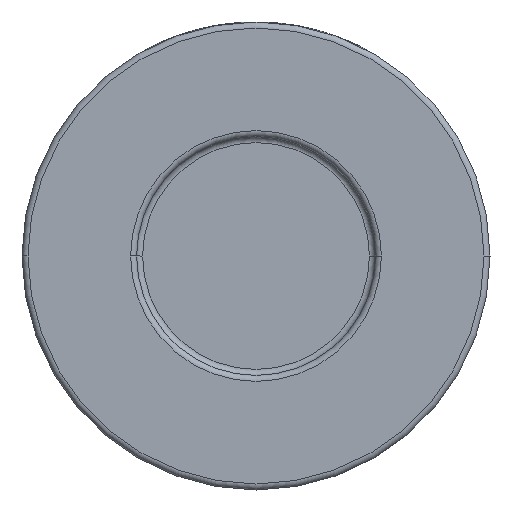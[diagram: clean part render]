
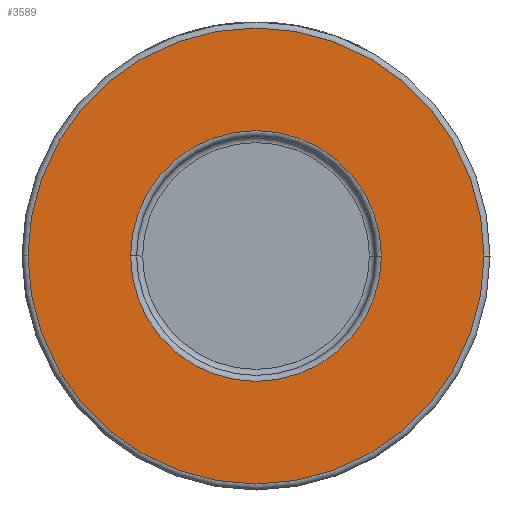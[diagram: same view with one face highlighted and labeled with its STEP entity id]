
A CAD part, front view. The second image highlights one B-rep face of the part: STEP entity #3589.
In plain terms, the highlighted planar face has unit normal (0, -1, 0).
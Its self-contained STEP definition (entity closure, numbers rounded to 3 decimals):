
#50 = CIRCLE ( 'NONE', #2193, 38. ) ;
#122 = AXIS2_PLACEMENT_3D ( 'NONE', #540, #518, #1195 ) ;
#201 = DIRECTION ( 'NONE',  ( 1., 0., 0. ) ) ;
#518 = DIRECTION ( 'NONE',  ( 0., 1., 0. ) ) ;
#540 = CARTESIAN_POINT ( 'NONE',  ( 0., -26., 0. ) ) ;
#682 = EDGE_CURVE ( 'NONE', #4034, #3732, #1651, .T. ) ;
#756 = DIRECTION ( 'NONE',  ( 0., -1., 0. ) ) ;
#894 = CARTESIAN_POINT ( 'NONE',  ( 39., -26., 0. ) ) ;
#940 = FACE_BOUND ( 'NONE', #3646, .T. ) ;
#1155 = DIRECTION ( 'NONE',  ( 0., 1., 0. ) ) ;
#1158 = AXIS2_PLACEMENT_3D ( 'NONE', #4418, #1155, #3680 ) ;
#1195 = DIRECTION ( 'NONE',  ( 1., 0., 0. ) ) ;
#1380 = EDGE_CURVE ( 'NONE', #1769, #1992, #2400, .T. ) ;
#1610 = EDGE_CURVE ( 'NONE', #3732, #4034, #2413, .T. ) ;
#1651 = CIRCLE ( 'NONE', #122, 20.9 ) ;
#1769 = VERTEX_POINT ( 'NONE', #4251 ) ;
#1793 = ORIENTED_EDGE ( 'NONE', *, *, #3055, .T. ) ;
#1945 = CARTESIAN_POINT ( 'NONE',  ( 0., -26., 0. ) ) ;
#1992 = VERTEX_POINT ( 'NONE', #2662 ) ;
#2193 = AXIS2_PLACEMENT_3D ( 'NONE', #2755, #4163, #3038 ) ;
#2309 = DIRECTION ( 'NONE',  ( 1., 0., 0. ) ) ;
#2331 = DIRECTION ( 'NONE',  ( 0., -1., 0. ) ) ;
#2354 = PLANE ( 'NONE',  #3742 ) ;
#2400 = CIRCLE ( 'NONE', #4395, 38. ) ;
#2412 = CARTESIAN_POINT ( 'NONE',  ( 20.9, -26., 0. ) ) ;
#2413 = CIRCLE ( 'NONE', #1158, 20.9 ) ;
#2662 = CARTESIAN_POINT ( 'NONE',  ( -38., -26., 0. ) ) ;
#2680 = ORIENTED_EDGE ( 'NONE', *, *, #1380, .T. ) ;
#2755 = CARTESIAN_POINT ( 'NONE',  ( 0., -26., 0. ) ) ;
#3017 = EDGE_LOOP ( 'NONE', ( #2680, #1793 ) ) ;
#3038 = DIRECTION ( 'NONE',  ( 1., 0., 0. ) ) ;
#3040 = ORIENTED_EDGE ( 'NONE', *, *, #682, .T. ) ;
#3055 = EDGE_CURVE ( 'NONE', #1992, #1769, #50, .T. ) ;
#3347 = FACE_OUTER_BOUND ( 'NONE', #3017, .T. ) ;
#3589 = ADVANCED_FACE ( 'NONE', ( #940, #3347 ), #2354, .T. ) ;
#3646 = EDGE_LOOP ( 'NONE', ( #3040, #4269 ) ) ;
#3680 = DIRECTION ( 'NONE',  ( 1., 0., 0. ) ) ;
#3732 = VERTEX_POINT ( 'NONE', #3917 ) ;
#3742 = AXIS2_PLACEMENT_3D ( 'NONE', #894, #2331, #2309 ) ;
#3917 = CARTESIAN_POINT ( 'NONE',  ( -20.9, -26., 0. ) ) ;
#4034 = VERTEX_POINT ( 'NONE', #2412 ) ;
#4163 = DIRECTION ( 'NONE',  ( 0., -1., 0. ) ) ;
#4251 = CARTESIAN_POINT ( 'NONE',  ( 38., -26., 0. ) ) ;
#4269 = ORIENTED_EDGE ( 'NONE', *, *, #1610, .T. ) ;
#4395 = AXIS2_PLACEMENT_3D ( 'NONE', #1945, #756, #201 ) ;
#4418 = CARTESIAN_POINT ( 'NONE',  ( 0., -26., 0. ) ) ;
